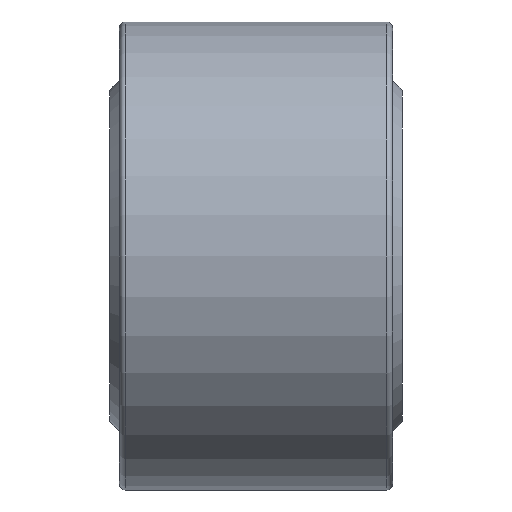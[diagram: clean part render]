
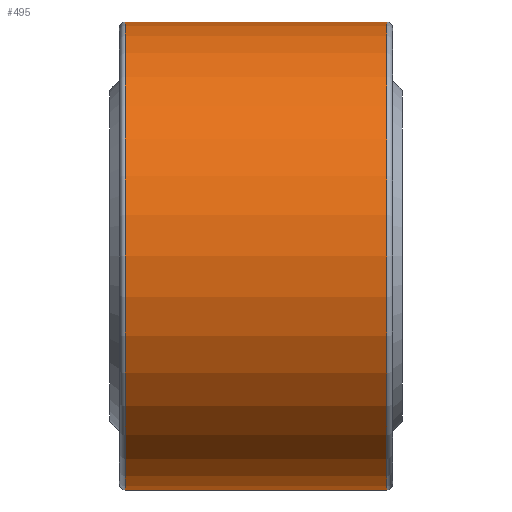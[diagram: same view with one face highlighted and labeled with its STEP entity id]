
A CAD part, front view. The second image highlights one B-rep face of the part: STEP entity #495.
In plain terms, the highlighted cylindrical face has radius 12 mm (diameter 24 mm), a full revolution.
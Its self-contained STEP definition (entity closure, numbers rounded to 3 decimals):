
#115=CYLINDRICAL_SURFACE('',#545,12.);
#133=FACE_BOUND('',#215,.T.);
#172=FACE_OUTER_BOUND('',#214,.T.);
#214=EDGE_LOOP('',(#414));
#215=EDGE_LOOP('',(#415));
#293=CIRCLE('',#544,12.);
#294=CIRCLE('',#546,12.);
#333=VERTEX_POINT('',#851);
#334=VERTEX_POINT('',#854);
#373=EDGE_CURVE('',#333,#333,#293,.T.);
#374=EDGE_CURVE('',#334,#334,#294,.T.);
#414=ORIENTED_EDGE('',*,*,#374,.F.);
#415=ORIENTED_EDGE('',*,*,#373,.F.);
#495=ADVANCED_FACE('',(#172,#133),#115,.T.);
#544=AXIS2_PLACEMENT_3D('',#852,#649,#650);
#545=AXIS2_PLACEMENT_3D('',#853,#651,#652);
#546=AXIS2_PLACEMENT_3D('',#855,#653,#654);
#649=DIRECTION('center_axis',(-1.,0.,0.));
#650=DIRECTION('ref_axis',(0.,-1.,0.));
#651=DIRECTION('center_axis',(1.,0.,0.));
#652=DIRECTION('ref_axis',(0.,1.,0.));
#653=DIRECTION('center_axis',(1.,0.,0.));
#654=DIRECTION('ref_axis',(0.,-1.,0.));
#851=CARTESIAN_POINT('',(-6.7,12.,0.));
#852=CARTESIAN_POINT('Origin',(-6.7,0.,0.));
#853=CARTESIAN_POINT('Origin',(0.,0.,
0.));
#854=CARTESIAN_POINT('',(6.7,12.,0.));
#855=CARTESIAN_POINT('Origin',(6.7,0.,0.));
